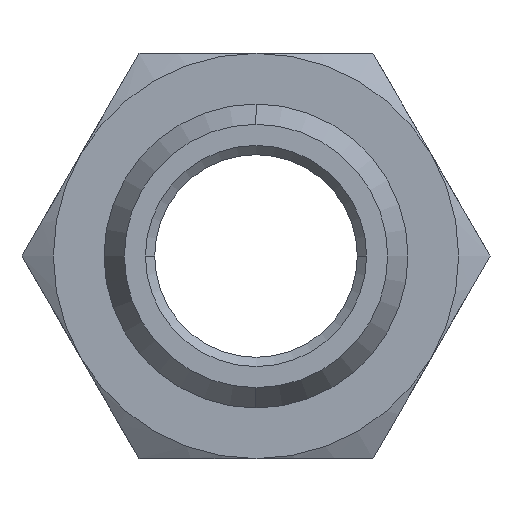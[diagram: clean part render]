
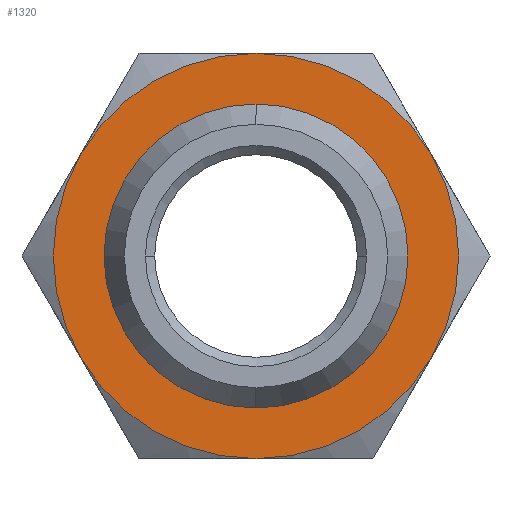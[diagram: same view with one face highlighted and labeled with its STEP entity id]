
A CAD part, front view. The second image highlights one B-rep face of the part: STEP entity #1320.
In plain terms, the highlighted planar face has unit normal (0, -1, 0).
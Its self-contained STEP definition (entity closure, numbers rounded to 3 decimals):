
#10 = CARTESIAN_POINT ( 'NONE',  ( 9.526, -15., 5.5 ) ) ;
#15 = DIRECTION ( 'NONE',  ( 0., -1., 0. ) ) ;
#30 = CARTESIAN_POINT ( 'NONE',  ( 0., -15., 0. ) ) ;
#42 = AXIS2_PLACEMENT_3D ( 'NONE', #176, #1492, #509 ) ;
#50 = CIRCLE ( 'NONE', #42, 11. ) ;
#51 = EDGE_CURVE ( 'NONE', #1335, #532, #458, .T. ) ;
#63 = AXIS2_PLACEMENT_3D ( 'NONE', #1146, #1145, #1154 ) ;
#69 = FACE_OUTER_BOUND ( 'NONE', #1420, .T. ) ;
#122 = FACE_BOUND ( 'NONE', #612, .T. ) ;
#176 = CARTESIAN_POINT ( 'NONE',  ( 0., -15., 0. ) ) ;
#220 = AXIS2_PLACEMENT_3D ( 'NONE', #417, #15, #1042 ) ;
#266 = CARTESIAN_POINT ( 'NONE',  ( -9.526, -15., 5.5 ) ) ;
#269 = CIRCLE ( 'NONE', #1393, 11. ) ;
#299 = CIRCLE ( 'NONE', #973, 11. ) ;
#305 = CIRCLE ( 'NONE', #644, 11. ) ;
#320 = DIRECTION ( 'NONE',  ( 0., 0., -1. ) ) ;
#351 = CARTESIAN_POINT ( 'NONE',  ( 0., -15., 0. ) ) ;
#357 = CIRCLE ( 'NONE', #220, 11. ) ;
#361 = CIRCLE ( 'NONE', #63, 8.25 ) ;
#377 = EDGE_CURVE ( 'NONE', #532, #1335, #361, .T. ) ;
#394 = CARTESIAN_POINT ( 'NONE',  ( 0., -15., 11. ) ) ;
#417 = CARTESIAN_POINT ( 'NONE',  ( 0., -15., 0. ) ) ;
#458 = CIRCLE ( 'NONE', #601, 8.25 ) ;
#509 = DIRECTION ( 'NONE',  ( 0., 0., -1. ) ) ;
#511 = EDGE_CURVE ( 'NONE', #1543, #1139, #357, .T. ) ;
#528 = CARTESIAN_POINT ( 'NONE',  ( 0., -15., 0. ) ) ;
#532 = VERTEX_POINT ( 'NONE', #1358 ) ;
#601 = AXIS2_PLACEMENT_3D ( 'NONE', #351, #1475, #1341 ) ;
#612 = EDGE_LOOP ( 'NONE', ( #1155, #1159 ) ) ;
#644 = AXIS2_PLACEMENT_3D ( 'NONE', #30, #885, #770 ) ;
#647 = ORIENTED_EDGE ( 'NONE', *, *, #848, .T. ) ;
#728 = CARTESIAN_POINT ( 'NONE',  ( 0., -15., -8.25 ) ) ;
#738 = CARTESIAN_POINT ( 'NONE',  ( 0., -15., -11. ) ) ;
#740 = CARTESIAN_POINT ( 'NONE',  ( 11., -15., 0. ) ) ;
#770 = DIRECTION ( 'NONE',  ( 0., 0., -1. ) ) ;
#784 = CARTESIAN_POINT ( 'NONE',  ( -9.526, -15., -5.5 ) ) ;
#848 = EDGE_CURVE ( 'NONE', #1314, #1543, #305, .T. ) ;
#851 = PLANE ( 'NONE',  #1513 ) ;
#860 = CARTESIAN_POINT ( 'NONE',  ( 0., -15., 0. ) ) ;
#871 = DIRECTION ( 'NONE',  ( 0., -1., 0. ) ) ;
#882 = VERTEX_POINT ( 'NONE', #784 ) ;
#885 = DIRECTION ( 'NONE',  ( 0., -1., 0. ) ) ;
#889 = DIRECTION ( 'NONE',  ( 0., 0., -1. ) ) ;
#962 = EDGE_CURVE ( 'NONE', #1139, #1295, #299, .T. ) ;
#969 = DIRECTION ( 'NONE',  ( 0., -1., 0. ) ) ;
#973 = AXIS2_PLACEMENT_3D ( 'NONE', #528, #1132, #320 ) ;
#1017 = CARTESIAN_POINT ( 'NONE',  ( 9.526, -15., -5.5 ) ) ;
#1041 = DIRECTION ( 'NONE',  ( 0., -1., 0. ) ) ;
#1042 = DIRECTION ( 'NONE',  ( 0., 0., -1. ) ) ;
#1079 = EDGE_CURVE ( 'NONE', #1490, #882, #269, .T. ) ;
#1087 = ORIENTED_EDGE ( 'NONE', *, *, #511, .T. ) ;
#1117 = ORIENTED_EDGE ( 'NONE', *, *, #1412, .T. ) ;
#1132 = DIRECTION ( 'NONE',  ( 0., -1., 0. ) ) ;
#1136 = ORIENTED_EDGE ( 'NONE', *, *, #962, .T. ) ;
#1139 = VERTEX_POINT ( 'NONE', #10 ) ;
#1145 = DIRECTION ( 'NONE',  ( 0., -1., 0. ) ) ;
#1146 = CARTESIAN_POINT ( 'NONE',  ( 0., -15., 0. ) ) ;
#1154 = DIRECTION ( 'NONE',  ( 0., 0., -1. ) ) ;
#1155 = ORIENTED_EDGE ( 'NONE', *, *, #51, .F. ) ;
#1159 = ORIENTED_EDGE ( 'NONE', *, *, #377, .F. ) ;
#1170 = CARTESIAN_POINT ( 'NONE',  ( 0., -15., 0. ) ) ;
#1179 = DIRECTION ( 'NONE',  ( 0., 0., -1. ) ) ;
#1205 = ORIENTED_EDGE ( 'NONE', *, *, #1079, .T. ) ;
#1212 = AXIS2_PLACEMENT_3D ( 'NONE', #860, #871, #889 ) ;
#1227 = DIRECTION ( 'NONE',  ( 0., 0., -1. ) ) ;
#1237 = ORIENTED_EDGE ( 'NONE', *, *, #1337, .T. ) ;
#1293 = CIRCLE ( 'NONE', #1212, 11. ) ;
#1295 = VERTEX_POINT ( 'NONE', #394 ) ;
#1314 = VERTEX_POINT ( 'NONE', #738 ) ;
#1320 = ADVANCED_FACE ( 'NONE', ( #69, #122 ), #851, .T. ) ;
#1335 = VERTEX_POINT ( 'NONE', #728 ) ;
#1337 = EDGE_CURVE ( 'NONE', #882, #1314, #50, .T. ) ;
#1341 = DIRECTION ( 'NONE',  ( 0., 0., -1. ) ) ;
#1358 = CARTESIAN_POINT ( 'NONE',  ( 0., -15., 8.25 ) ) ;
#1393 = AXIS2_PLACEMENT_3D ( 'NONE', #1170, #1041, #1179 ) ;
#1412 = EDGE_CURVE ( 'NONE', #1295, #1490, #1293, .T. ) ;
#1420 = EDGE_LOOP ( 'NONE', ( #647, #1087, #1136, #1117, #1205, #1237 ) ) ;
#1475 = DIRECTION ( 'NONE',  ( 0., -1., 0. ) ) ;
#1490 = VERTEX_POINT ( 'NONE', #266 ) ;
#1492 = DIRECTION ( 'NONE',  ( 0., -1., 0. ) ) ;
#1513 = AXIS2_PLACEMENT_3D ( 'NONE', #740, #969, #1227 ) ;
#1543 = VERTEX_POINT ( 'NONE', #1017 ) ;
